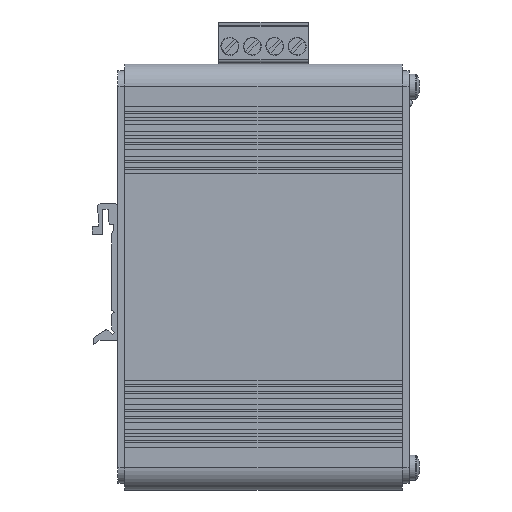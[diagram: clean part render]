
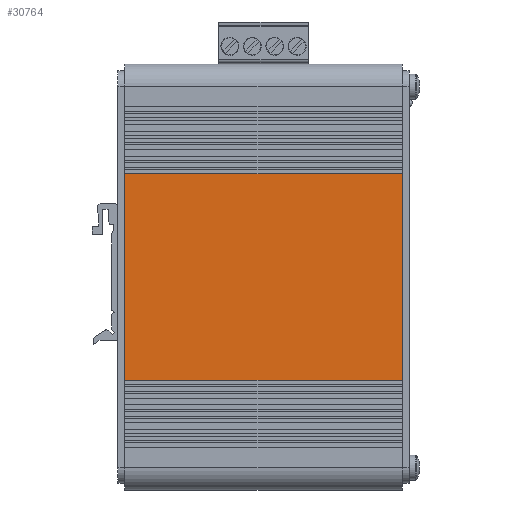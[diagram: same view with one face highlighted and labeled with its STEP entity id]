
A CAD part, left-side view. The second image highlights one B-rep face of the part: STEP entity #30764.
In plain terms, the highlighted planar face has unit normal (-1, 0, 0).
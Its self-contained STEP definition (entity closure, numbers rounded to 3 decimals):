
#1556=PLANE('',#32783);
#3245=FACE_OUTER_BOUND('',#4876,.T.);
#4876=EDGE_LOOP('',(#28195,#28196,#28197,#28198));
#8382=LINE('',#48603,#12232);
#8561=LINE('',#48981,#12411);
#8689=LINE('',#49241,#12539);
#8690=LINE('',#49242,#12540);
#12232=VECTOR('',#39922,10.);
#12411=VECTOR('',#40209,10.);
#12539=VECTOR('',#40419,10.);
#12540=VECTOR('',#40420,10.);
#15540=VERTEX_POINT('',#48599);
#15541=VERTEX_POINT('',#48601);
#15684=VERTEX_POINT('',#48977);
#15686=VERTEX_POINT('',#48980);
#19700=EDGE_CURVE('',#15540,#15541,#8382,.T.);
#19879=EDGE_CURVE('',#15686,#15684,#8561,.T.);
#20007=EDGE_CURVE('',#15541,#15686,#8689,.T.);
#20008=EDGE_CURVE('',#15684,#15540,#8690,.T.);
#28195=ORIENTED_EDGE('',*,*,#19700,.T.);
#28196=ORIENTED_EDGE('',*,*,#20007,.T.);
#28197=ORIENTED_EDGE('',*,*,#19879,.T.);
#28198=ORIENTED_EDGE('',*,*,#20008,.T.);
#30764=ADVANCED_FACE('',(#3245),#1556,.T.);
#32783=AXIS2_PLACEMENT_3D('',#49240,#40417,#40418);
#39922=DIRECTION('',(0.,-1.,0.));
#40209=DIRECTION('',(0.,1.,0.));
#40417=DIRECTION('center_axis',(-1.,0.,0.));
#40418=DIRECTION('ref_axis',(0.,0.,1.));
#40419=DIRECTION('',(0.,0.,1.));
#40420=DIRECTION('',(0.,0.,-1.));
#48599=CARTESIAN_POINT('',(0.,63.5,24.5));
#48601=CARTESIAN_POINT('',(0.,1.5,24.5));
#48603=CARTESIAN_POINT('',(0.,0.75,24.5));
#48977=CARTESIAN_POINT('',(0.,63.5,70.5));
#48980=CARTESIAN_POINT('',(0.,1.5,70.5));
#48981=CARTESIAN_POINT('',(0.,0.75,70.5));
#49240=CARTESIAN_POINT('Origin',(0.,0.,5.));
#49241=CARTESIAN_POINT('',(0.,1.5,26.25));
#49242=CARTESIAN_POINT('',(0.,63.5,26.25));
